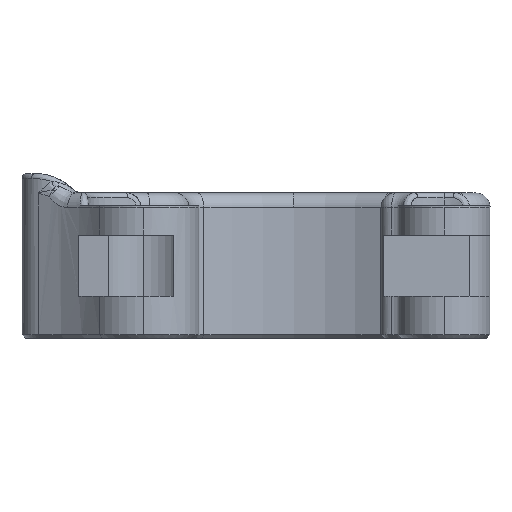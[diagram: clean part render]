
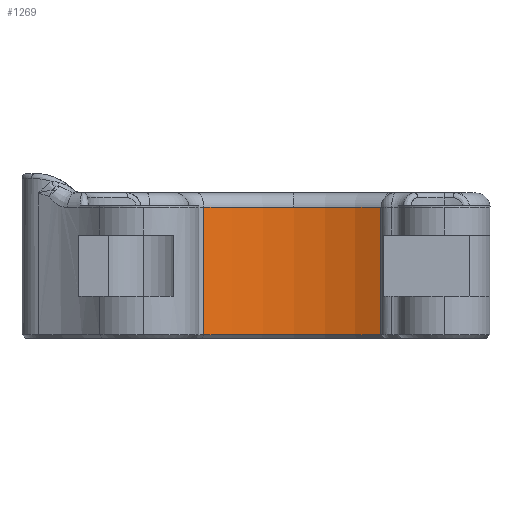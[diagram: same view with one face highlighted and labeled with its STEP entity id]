
A CAD part, left-side view. The second image highlights one B-rep face of the part: STEP entity #1269.
In plain terms, the highlighted cylindrical face has radius 19.42 mm (diameter 38.841 mm), a partial arc.
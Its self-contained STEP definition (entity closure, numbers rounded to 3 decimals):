
#237 = VECTOR ( 'NONE', #1331, 1000. ) ;
#429 = CARTESIAN_POINT ( 'NONE',  ( 17.074, 9.253, 15. ) ) ;
#560 = VERTEX_POINT ( 'NONE', #1517 ) ;
#918 = EDGE_CURVE ( 'NONE', #560, #4883, #7695, .T. ) ;
#1269 = ADVANCED_FACE ( 'NONE', ( #4284 ), #4084, .F. ) ;
#1331 = DIRECTION ( 'NONE',  ( 0., 0., 1. ) ) ;
#1477 = AXIS2_PLACEMENT_3D ( 'NONE', #7988, #5597, #3939 ) ;
#1517 = CARTESIAN_POINT ( 'NONE',  ( 17.074, 9.253, 0.4 ) ) ;
#1699 = EDGE_CURVE ( 'NONE', #7126, #8029, #1717, .T. ) ;
#1717 = CIRCLE ( 'NONE', #7879, 19.42 ) ;
#1893 = CARTESIAN_POINT ( 'NONE',  ( 0., 0., 13.5 ) ) ;
#2220 = CARTESIAN_POINT ( 'NONE',  ( 19.42, 0., 13.5 ) ) ;
#2333 = DIRECTION ( 'NONE',  ( 0., 0., -1. ) ) ;
#2480 = DIRECTION ( 'NONE',  ( 0., 0., 1. ) ) ;
#2545 = DIRECTION ( 'NONE',  ( 1., 0., 0. ) ) ;
#2656 = ORIENTED_EDGE ( 'NONE', *, *, #918, .T. ) ;
#2949 = VERTEX_POINT ( 'NONE', #6370 ) ;
#3090 = CARTESIAN_POINT ( 'NONE',  ( 0., 0., 15. ) ) ;
#3648 = VECTOR ( 'NONE', #2333, 1000. ) ;
#3702 = EDGE_CURVE ( 'NONE', #4883, #2949, #4844, .T. ) ;
#3827 = LINE ( 'NONE', #429, #3648 ) ;
#3939 = DIRECTION ( 'NONE',  ( 1., 0., 0. ) ) ;
#4084 = CYLINDRICAL_SURFACE ( 'NONE', #5103, 19.42 ) ;
#4284 = FACE_OUTER_BOUND ( 'NONE', #4747, .T. ) ;
#4335 = DIRECTION ( 'NONE',  ( -1., 0., 0. ) ) ;
#4438 = CARTESIAN_POINT ( 'NONE',  ( 17.074, 9.253, 13.5 ) ) ;
#4718 = EDGE_CURVE ( 'NONE', #2949, #7126, #7067, .T. ) ;
#4747 = EDGE_LOOP ( 'NONE', ( #5250, #2656, #7419, #7930, #8089 ) ) ;
#4844 = LINE ( 'NONE', #5712, #237 ) ;
#4883 = VERTEX_POINT ( 'NONE', #6411 ) ;
#4995 = EDGE_CURVE ( 'NONE', #8029, #560, #3827, .T. ) ;
#5103 = AXIS2_PLACEMENT_3D ( 'NONE', #3090, #8076, #4335 ) ;
#5250 = ORIENTED_EDGE ( 'NONE', *, *, #4995, .T. ) ;
#5597 = DIRECTION ( 'NONE',  ( 0., 0., -1. ) ) ;
#5712 = CARTESIAN_POINT ( 'NONE',  ( 17.074, -9.253, 15. ) ) ;
#6175 = AXIS2_PLACEMENT_3D ( 'NONE', #1893, #6273, #2545 ) ;
#6222 = CARTESIAN_POINT ( 'NONE',  ( 0., 0., 13.5 ) ) ;
#6273 = DIRECTION ( 'NONE',  ( 0., 0., 1. ) ) ;
#6370 = CARTESIAN_POINT ( 'NONE',  ( 17.074, -9.253, 13.5 ) ) ;
#6411 = CARTESIAN_POINT ( 'NONE',  ( 17.074, -9.253, 0.4 ) ) ;
#6843 = DIRECTION ( 'NONE',  ( 1., 0., 0. ) ) ;
#7067 = CIRCLE ( 'NONE', #6175, 19.42 ) ;
#7126 = VERTEX_POINT ( 'NONE', #2220 ) ;
#7419 = ORIENTED_EDGE ( 'NONE', *, *, #3702, .T. ) ;
#7695 = CIRCLE ( 'NONE', #1477, 19.42 ) ;
#7879 = AXIS2_PLACEMENT_3D ( 'NONE', #6222, #2480, #6843 ) ;
#7930 = ORIENTED_EDGE ( 'NONE', *, *, #4718, .T. ) ;
#7988 = CARTESIAN_POINT ( 'NONE',  ( 0., 0., 0.4 ) ) ;
#8029 = VERTEX_POINT ( 'NONE', #4438 ) ;
#8076 = DIRECTION ( 'NONE',  ( 0., 0., -1. ) ) ;
#8089 = ORIENTED_EDGE ( 'NONE', *, *, #1699, .T. ) ;
